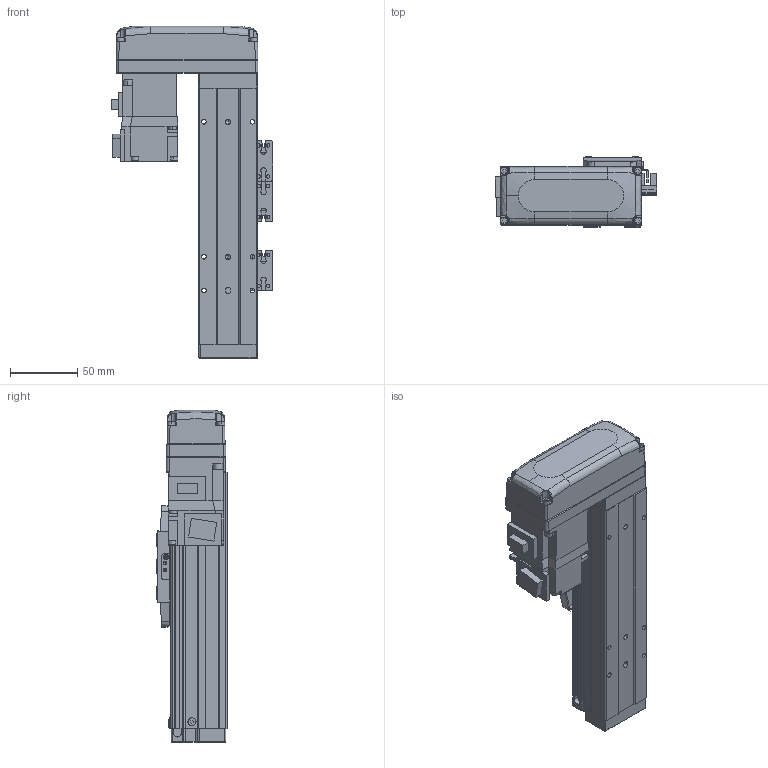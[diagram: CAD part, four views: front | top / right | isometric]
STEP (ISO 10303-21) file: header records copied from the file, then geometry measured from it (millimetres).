
FILE_DESCRIPTION (( 'STEP AP203' ), '1' );
FILE_NAME ('BTH40-50-BR-M05-C4.step', '2021-12-16T00:21:50', ( '微软用户' ), ( '微软中国' ), 'SwSTEP 2.0', 'SolidWorks 2020', '' );
FILE_SCHEMA (( 'CONFIG_CONTROL_DESIGN' ));
Length unit declared in the file: millimetre
Products named in the file (19): BTH40-001-50_BTH40-001-50; BTH50-024; BTH40-027-1; BTH40-003; BTH40-022; GBT 70.1-M3℅6; BTH50-026; BTH40-006; GBT 70.1-M2.5×6; GBT96.1-2002 3×0.8; BTH40-50-BR-M05-C4; BTH-M3X5X6; BTH40-004; GBT70.1-2000 M3×16; BTH40-013; BTH50-028; HG-KR13; BTH50-023; GBT 70.3-M3℅6
Assembly tree (47 placements, depth 2):
  BTH40-50-BR-M05-C4
    BTH40-001-50_BTH40-001-50
    BTH40-003
    BTH40-006
    BTH-M3X5X6  x8
    GBT70.1-2000 M3×16  x4
    BTH50-028  x2
    BTH50-023  x3
    BTH50-024  x3
    GBT 70.1-M3℅6  x6
    GBT96.1-2002 3×0.8  x6
    BTH40-022
    GBT 70.1-M2.5×6  x2
    BTH40-004
    BTH40-013
    HG-KR13
    GBT 70.3-M3℅6  x4
    BTH40-027-1
    BTH50-026
Bounding box: 120 x 52 x 246 mm (x, y, z)
Volume: 614723.5 mm3; surface area: 136492.9 mm2
Topology: 49 solids, 49 shells, 1967 faces, 4611 edges, 2834 vertices
Faces by surface type: plane 1052, cylinder 479, cone 270, torus 128, bspline 34, sphere 4
Entity records: 39099 total; most frequent: CARTESIAN_POINT 7498, DIRECTION 6112, ORIENTED_EDGE 5868, EDGE_CURVE 2934, AXIS2_PLACEMENT_3D 2083, LINE 1946, VECTOR 1946, VERTEX_POINT 1821
